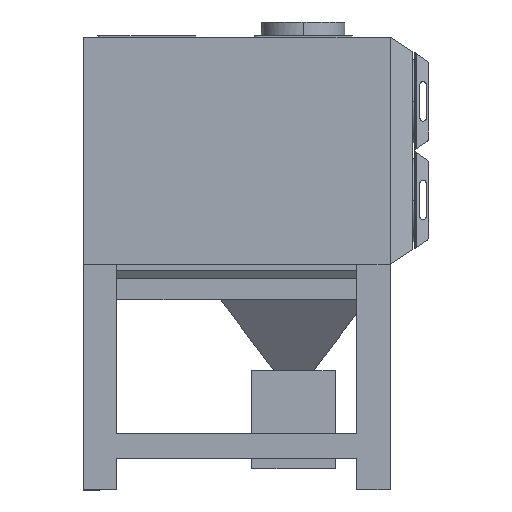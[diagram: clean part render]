
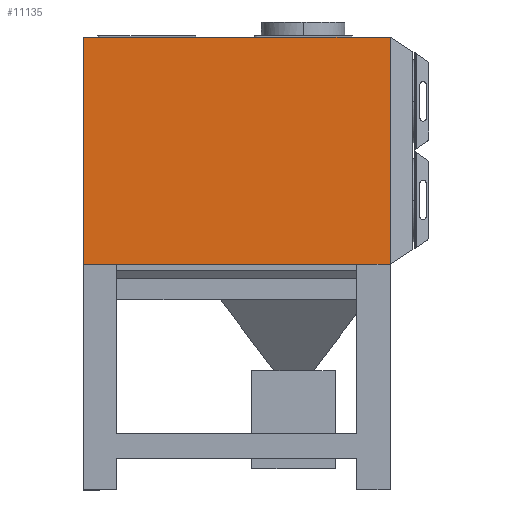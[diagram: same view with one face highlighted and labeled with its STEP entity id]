
A CAD part, left-side view. The second image highlights one B-rep face of the part: STEP entity #11135.
In plain terms, the highlighted free-form (B-spline) face has degree [3, 3] with [4, 4] control points.
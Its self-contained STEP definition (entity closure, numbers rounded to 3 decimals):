
#1107=ORIENTED_EDGE('trim curve',*,*,#2005,.F.);
#1108=ORIENTED_EDGE('trim curve',*,*,#1630,.T.);
#1109=ORIENTED_EDGE('trim curve',*,*,#1753,.T.);
#1110=ORIENTED_EDGE('trim curve',*,*,#1625,.T.);
#1111=ORIENTED_EDGE('trim curve',*,*,#1999,.T.);
#1112=ORIENTED_EDGE('trim curve',*,*,#2003,.F.);
#1226=VERTEX_POINT('Trimming Point',#5651);
#1227=VERTEX_POINT('Trimming Point',#5655);
#1230=VERTEX_POINT('Trimming Point',#5671);
#1231=VERTEX_POINT('Trimming Point',#5675);
#1465=VERTEX_POINT('Trimming Point',#10604);
#1467=VERTEX_POINT('Trimming Point',#10648);
#1625=EDGE_CURVE('Edge Curve',#1227,#1226,#2163,.T.);
#1630=EDGE_CURVE('Edge Curve',#1231,#1230,#2168,.T.);
#1753=EDGE_CURVE('Edge Curve',#1230,#1227,#2291,.T.);
#1999=EDGE_CURVE('Edge Curve',#1226,#1465,#2537,.T.);
#2003=EDGE_CURVE('Edge Curve',#1467,#1465,#2541,.T.);
#2005=EDGE_CURVE('Edge Curve',#1231,#1467,#2543,.T.);
#2163=(
BOUNDED_CURVE()
B_SPLINE_CURVE(3,(#5655,#5656,#5657,#5658),.UNSPECIFIED.,.U.,.U.)
B_SPLINE_CURVE_WITH_KNOTS((4,4),(0.,0.109),.UNSPECIFIED.)
CURVE()
GEOMETRIC_REPRESENTATION_ITEM()
RATIONAL_B_SPLINE_CURVE((1.,1.,1.,1.))
REPRESENTATION_ITEM('node')
);
#2168=(
BOUNDED_CURVE()
B_SPLINE_CURVE(3,(#5675,#5676,#5677,#5678),.UNSPECIFIED.,.U.,.U.)
B_SPLINE_CURVE_WITH_KNOTS((4,4),(0.,0.109),.UNSPECIFIED.)
CURVE()
GEOMETRIC_REPRESENTATION_ITEM()
RATIONAL_B_SPLINE_CURVE((1.,1.,1.,1.))
REPRESENTATION_ITEM('node')
);
#2291=(
BOUNDED_CURVE()
B_SPLINE_CURVE(3,(#6569,#6570,#6571,#6572),.UNSPECIFIED.,.U.,.U.)
B_SPLINE_CURVE_WITH_KNOTS((4,4),(0.,0.973),.UNSPECIFIED.)
CURVE()
GEOMETRIC_REPRESENTATION_ITEM()
RATIONAL_B_SPLINE_CURVE((1.,1.,1.,1.))
REPRESENTATION_ITEM('node')
);
#2537=(
BOUNDED_CURVE()
B_SPLINE_CURVE(1,(#10621,#10622),.UNSPECIFIED.,.U.,.U.)
B_SPLINE_CURVE_WITH_KNOTS((2,2),(0.,108.8),.UNSPECIFIED.)
CURVE()
GEOMETRIC_REPRESENTATION_ITEM()
RATIONAL_B_SPLINE_CURVE((1.,1.))
REPRESENTATION_ITEM('node')
);
#2541=(
BOUNDED_CURVE()
B_SPLINE_CURVE(3,(#10649,#10650,#10651,#10652),.UNSPECIFIED.,.U.,.U.)
B_SPLINE_CURVE_WITH_KNOTS((4,4),(0.,1.),.UNSPECIFIED.)
CURVE()
GEOMETRIC_REPRESENTATION_ITEM()
RATIONAL_B_SPLINE_CURVE((1.,1.,1.,1.))
REPRESENTATION_ITEM('node')
);
#2543=(
BOUNDED_CURVE()
B_SPLINE_CURVE(3,(#10689,#10690,#10691,#10692),.UNSPECIFIED.,.U.,.U.)
B_SPLINE_CURVE_WITH_KNOTS((4,4),(0.,0.499),.UNSPECIFIED.)
CURVE()
GEOMETRIC_REPRESENTATION_ITEM()
RATIONAL_B_SPLINE_CURVE((1.,1.,1.,1.))
REPRESENTATION_ITEM('node')
);
#2763=EDGE_LOOP('trim boundary',(#1107,#1108,#1109,#1110,#1111,#1112));
#2961=FACE_OUTER_BOUND('Boundary Edges',#2763,.T.);
#5651=CARTESIAN_POINT('CVs',(2485.806,-452.024,1082.));
#5655=CARTESIAN_POINT('CVs',(2485.806,-292.024,1082.));
#5656=CARTESIAN_POINT('CVs',(2485.806,-345.358,1082.));
#5657=CARTESIAN_POINT('CVs',(2485.806,-398.691,1082.));
#5658=CARTESIAN_POINT('CVs',(2485.806,-452.024,1082.));
#5671=CARTESIAN_POINT('CVs',(2485.806,857.976,1082.));
#5675=CARTESIAN_POINT('CVs',(2485.806,1017.976,1082.));
#5676=CARTESIAN_POINT('CVs',(2485.806,964.642,1082.));
#5677=CARTESIAN_POINT('CVs',(2485.806,911.309,1082.));
#5678=CARTESIAN_POINT('CVs',(2485.806,857.976,1082.));
#6569=CARTESIAN_POINT('CVs',(2485.806,857.976,1082.));
#6570=CARTESIAN_POINT('CVs',(2485.806,474.642,1082.));
#6571=CARTESIAN_POINT('CVs',(2485.806,91.309,1082.));
#6572=CARTESIAN_POINT('CVs',(2485.806,-292.024,1082.));
#10604=CARTESIAN_POINT('CVs',(2485.806,-452.024,2170.));
#10621=CARTESIAN_POINT('CVs',(2485.806,-452.024,1082.));
#10622=CARTESIAN_POINT('CVs',(2485.806,-452.024,2170.));
#10648=CARTESIAN_POINT('CVs',(2485.806,1017.976,2170.));
#10649=CARTESIAN_POINT('CVs',(2485.806,1017.976,2170.));
#10650=CARTESIAN_POINT('CVs',(2485.806,527.976,2170.));
#10651=CARTESIAN_POINT('CVs',(2485.806,37.976,2170.));
#10652=CARTESIAN_POINT('CVs',(2485.806,-452.024,2170.));
#10689=CARTESIAN_POINT('CVs',(2485.806,1017.976,1082.));
#10690=CARTESIAN_POINT('CVs',(2485.806,1017.976,1444.667));
#10691=CARTESIAN_POINT('CVs',(2485.806,1017.976,1807.333));
#10692=CARTESIAN_POINT('CVs',(2485.806,1017.976,2170.));
#10709=CARTESIAN_POINT('CVs',(2485.806,-452.024,1082.));
#10710=CARTESIAN_POINT('CVs',(2485.806,37.976,1082.));
#10711=CARTESIAN_POINT('CVs',(2485.806,527.976,1082.));
#10712=CARTESIAN_POINT('CVs',(2485.806,1017.976,1082.));
#10713=CARTESIAN_POINT('CVs',(2485.806,-452.024,1808.667));
#10714=CARTESIAN_POINT('CVs',(2485.806,37.976,1808.667));
#10715=CARTESIAN_POINT('CVs',(2485.806,527.976,1808.667));
#10716=CARTESIAN_POINT('CVs',(2485.806,1017.976,1808.667));
#10717=CARTESIAN_POINT('CVs',(2485.806,-452.024,2535.333));
#10718=CARTESIAN_POINT('CVs',(2485.806,37.976,2535.333));
#10719=CARTESIAN_POINT('CVs',(2485.806,527.976,2535.333));
#10720=CARTESIAN_POINT('CVs',(2485.806,1017.976,2535.333));
#10721=CARTESIAN_POINT('CVs',(2485.806,-452.024,3262.));
#10722=CARTESIAN_POINT('CVs',(2485.806,37.976,3262.));
#10723=CARTESIAN_POINT('CVs',(2485.806,527.976,3262.));
#10724=CARTESIAN_POINT('CVs',(2485.806,1017.976,3262.));
#10937=(
BOUNDED_SURFACE()
B_SPLINE_SURFACE(3,3,((#10709,#10710,#10711,#10712),(#10713,#10714,#10715,
#10716),(#10717,#10718,#10719,#10720),(#10721,#10722,#10723,#10724)),.UNSPECIFIED.,
 .U.,.U.,.U.)
B_SPLINE_SURFACE_WITH_KNOTS((4,4),(4,4),(0.,1.),(0.,1.),.UNSPECIFIED.)
GEOMETRIC_REPRESENTATION_ITEM()
RATIONAL_B_SPLINE_SURFACE(((1.,1.,1.,1.),(1.,1.,1.,1.),(1.,1.,1.,1.),(1.,
1.,1.,1.)))
REPRESENTATION_ITEM('trim region')
SURFACE()
);
#11135=ADVANCED_FACE('trim region',(#2961),#10937,.T.);
